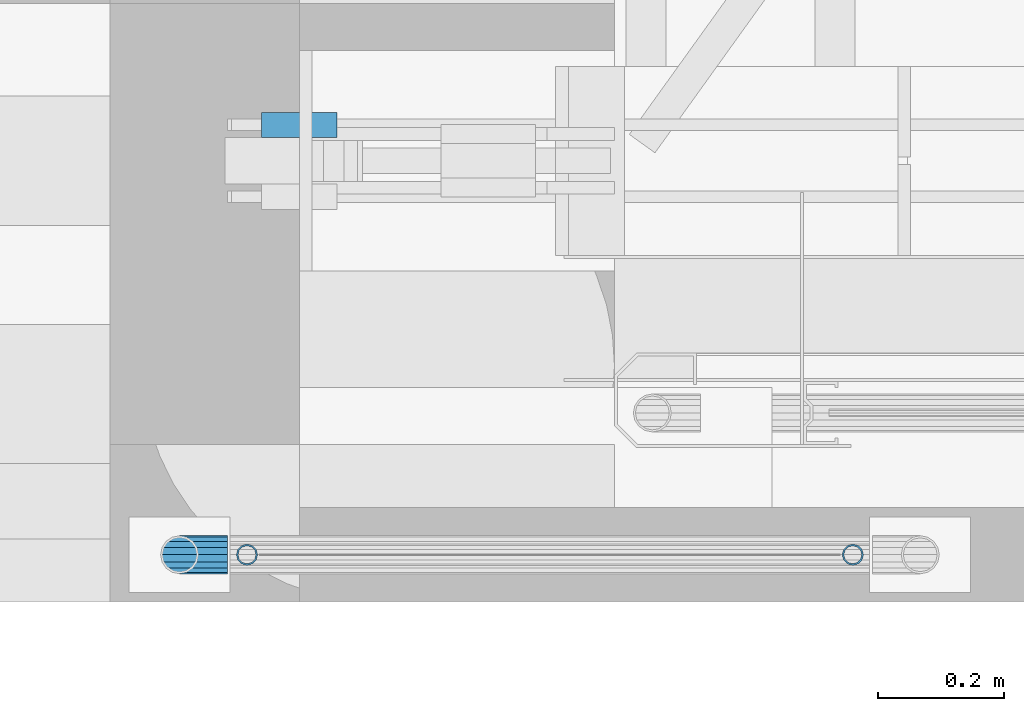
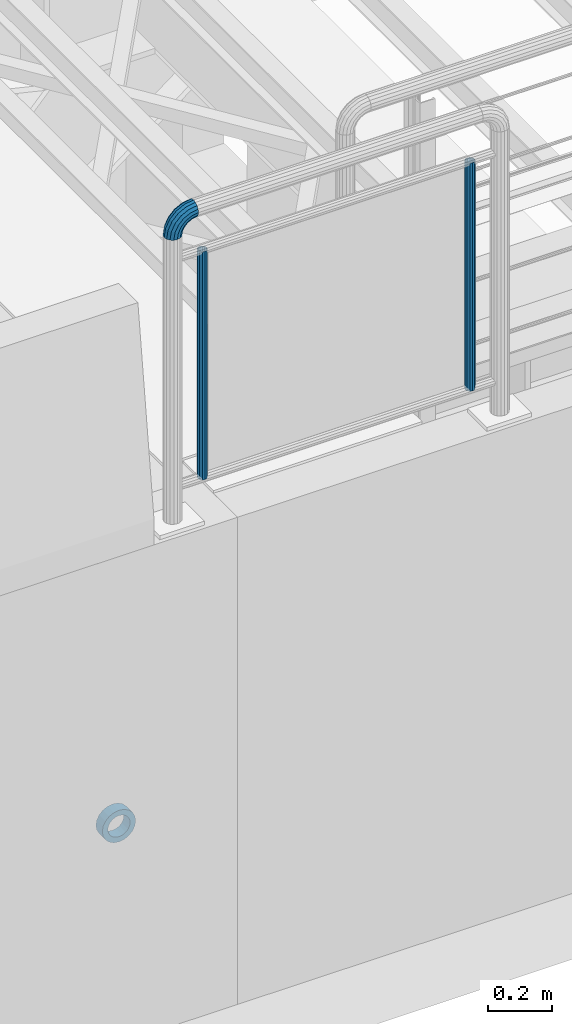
# One storey, part 19 of 31: 4 beams.
"""IFC2X3 building model written with IfcOpenShell, lengths in millimetres."""

from ifc_helpers import new_model, si_unit, frame, origin_with_axes, place, context, subcontext, project, spatial, faceted_brep, material, type_object, element, save


model = new_model("IFC2X3")

# Units and contexts
model_context = context("Model", 3, precision=1e-05, world=origin_with_axes())
body_context = subcontext(model_context, "Body", "Model", "MODEL_VIEW")
ifc_project = project(units=[si_unit("LENGTHUNIT", "METRE", prefix="MILLI"), si_unit("AREAUNIT", "SQUARE_METRE"), si_unit("VOLUMEUNIT", "CUBIC_METRE"), si_unit("MASSUNIT", "GRAM", prefix="KILO"), si_unit("TIMEUNIT", "SECOND"), si_unit("PLANEANGLEUNIT", "RADIAN"), si_unit("SOLIDANGLEUNIT", "STERADIAN"), si_unit("THERMODYNAMICTEMPERATUREUNIT", "DEGREE_CELSIUS"), si_unit("LUMINOUSINTENSITYUNIT", "LUMEN")], contexts=[model_context])

# Site, building, storey
site_placement = place(None, origin_with_axes())
site = spatial("IfcSite", under=ifc_project, at=site_placement, Name="Undefined", CompositionType="ELEMENT")
building_placement = place(site_placement, origin_with_axes())
building = spatial("IfcBuilding", under=site, at=building_placement, Name="Undefined", CompositionType="ELEMENT")
storey_placement = place(building_placement, origin_with_axes())
storey = spatial("IfcBuildingStorey", under=building, at=storey_placement, Name="Undefined", CompositionType="ELEMENT", Elevation=0.0)

# Beams
ifc_material = material(Name="STEEL/S355J2+N")
beam_type_1 = type_object("IfcBeamType", Name="O120*20", PredefinedType="NOTDEFINED")
beam_1_placement = place(storey_placement, frame((2600.0, 37.0, -1619.69), z_axis=(0.0, 0.0, -1.0), x_axis=(0.0, 1.0, 0.0)))
element("IfcBeam", 1, at=beam_1_placement, inside=storey, type_object=beam_type_1, material=ifc_material, Name="STÅLBJELKE", context=body_context, shape_type="Brep", body=[
    faceted_brep([(0.0, -40.0, 0.0), (0.0, -38.0422606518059, 12.3606797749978), (40.0, -38.0422606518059, 12.3606797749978), (40.0, -40.0, 0.0), (0.0, -32.3606797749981, 23.511410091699), (40.0, -32.3606797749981, 23.511410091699), (0.0, -23.511410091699, 32.3606797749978), (40.0, -23.511410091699, 32.3606797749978), (0.0, -12.3606797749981, 38.0422606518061), (40.0, -12.3606797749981, 38.0422606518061), (0.0, 0.0, 40.0), (40.0, 0.0, 40.0), (0.0, 12.3606797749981, 38.0422606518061), (40.0, 12.3606797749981, 38.0422606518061), (0.0, 23.511410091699, 32.3606797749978), (40.0, 23.511410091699, 32.3606797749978), (0.0, 32.3606797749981, 23.511410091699), (40.0, 32.3606797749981, 23.511410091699), (0.0, 38.0422606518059, 12.3606797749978), (40.0, 38.0422606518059, 12.3606797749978), (0.0, 40.0, 0.0), (40.0, 40.0, 0.0), (0.0, 38.0422606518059, -12.3606797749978), (40.0, 38.0422606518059, -12.3606797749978), (0.0, 32.3606797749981, -23.511410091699), (40.0, 32.3606797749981, -23.511410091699), (0.0, 23.511410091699, -32.3606797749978), (40.0, 23.511410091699, -32.3606797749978), (0.0, 12.3606797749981, -38.0422606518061), (40.0, 12.3606797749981, -38.0422606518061), (0.0, 0.0, -40.0), (40.0, 0.0, -40.0), (0.0, -12.3606797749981, -38.0422606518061), (40.0, -12.3606797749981, -38.0422606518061), (0.0, -23.511410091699, -32.3606797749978), (40.0, -23.511410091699, -32.3606797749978), (0.0, -32.3606797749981, -23.511410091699), (40.0, -32.3606797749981, -23.511410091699), (0.0, -38.0422606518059, -12.3606797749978), (40.0, -38.0422606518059, -12.3606797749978), (0.0, -60.0, 0.0), (0.0, -57.0633909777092, -18.5410196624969), (40.0, -57.0633909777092, -18.5410196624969), (40.0, -60.0, 0.0), (0.0, -48.5410196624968, -35.2671151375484), (40.0, -48.5410196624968, -35.2671151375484), (0.0, -35.2671151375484, -48.5410196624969), (40.0, -35.2671151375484, -48.5410196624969), (0.0, -18.5410196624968, -57.0633909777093), (40.0, -18.5410196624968, -57.0633909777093), (0.0, 0.0, -60.0), (40.0, 0.0, -60.0), (0.0, 18.5410196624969, -57.0633909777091), (40.0, 18.5410196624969, -57.0633909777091), (0.0, 35.2671151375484, -48.5410196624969), (40.0, 35.2671151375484, -48.5410196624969), (0.0, 48.5410196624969, -35.2671151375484), (40.0, 48.5410196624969, -35.2671151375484), (0.0, 57.0633909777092, -18.5410196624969), (40.0, 57.0633909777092, -18.5410196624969), (0.0, 60.0, 0.0), (40.0, 60.0, 0.0), (0.0, 57.0633909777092, 18.5410196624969), (40.0, 57.0633909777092, 18.5410196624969), (0.0, 48.5410196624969, 35.2671151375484), (40.0, 48.5410196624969, 35.2671151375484), (0.0, 35.2671151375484, 48.5410196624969), (40.0, 35.2671151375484, 48.5410196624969), (0.0, 18.5410196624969, 57.0633909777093), (40.0, 18.5410196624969, 57.0633909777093), (0.0, 0.0, 60.0), (40.0, 0.0, 60.0), (0.0, -18.5410196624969, 57.0633909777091), (40.0, -18.5410196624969, 57.0633909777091), (0.0, -35.2671151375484, 48.5410196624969), (40.0, -35.2671151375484, 48.5410196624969), (0.0, -48.5410196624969, 35.2671151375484), (40.0, -48.5410196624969, 35.2671151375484), (0.0, -57.0633909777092, 18.5410196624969), (40.0, -57.0633909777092, 18.5410196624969)], [[[0, 1, 2, 3]], [[1, 4, 5, 2]], [[4, 6, 7, 5]], [[6, 8, 9, 7]], [[8, 10, 11, 9]], [[10, 12, 13, 11]], [[12, 14, 15, 13]], [[14, 16, 17, 15]], [[16, 18, 19, 17]], [[18, 20, 21, 19]], [[20, 22, 23, 21]], [[22, 24, 25, 23]], [[24, 26, 27, 25]], [[26, 28, 29, 27]], [[28, 30, 31, 29]], [[30, 32, 33, 31]], [[32, 34, 35, 33]], [[34, 36, 37, 35]], [[36, 38, 39, 37]], [[38, 0, 3, 39]], [[40, 41, 42, 43]], [[41, 44, 45, 42]], [[44, 46, 47, 45]], [[46, 48, 49, 47]], [[48, 50, 51, 49]], [[50, 52, 53, 51]], [[52, 54, 55, 53]], [[54, 56, 57, 55]], [[56, 58, 59, 57]], [[58, 60, 61, 59]], [[60, 62, 63, 61]], [[62, 64, 65, 63]], [[64, 66, 67, 65]], [[66, 68, 69, 67]], [[68, 70, 71, 69]], [[70, 72, 73, 71]], [[72, 74, 75, 73]], [[74, 76, 77, 75]], [[76, 78, 79, 77]], [[78, 40, 43, 79]], [[45, 47, 49, 51, 53, 55, 57, 59, 61, 63, 65, 67, 69, 71, 73, 75, 77, 79, 43, 42], [5, 7, 9, 11, 13, 15, 17, 19, 21, 23, 25, 27, 29, 31, 33, 35, 37, 39, 3, 2]], [[78, 76, 74, 72, 70, 68, 66, 64, 62, 60, 58, 56, 54, 52, 50, 48, 46, 44, 41, 40], [38, 36, 34, 32, 30, 28, 26, 24, 22, 20, 18, 16, 14, 12, 10, 8, 6, 4, 1, 0]]]),
])
beam_type_2 = type_object("IfcBeamType", Name="CFCHS60.3*3.2", PredefinedType="NOTDEFINED")
beam_2_placement = place(storey_placement, frame((2486.0, -625.0, 1169.85), z_axis=(-1.0, 0.0, 0.0), x_axis=(0.0, 0.0, -1.0)))
element("IfcBeam", 2, at=beam_2_placement, inside=storey, type_object=beam_type_2, material=ifc_material, Name="LKREKKVERK", context=body_context, shape_type="Brep", body=[
    faceted_brep([(11.5379054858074, -27.8549679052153, 0.0), (21.3192694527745, -21.3192694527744, 0.0), (23.9955348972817, -21.3192694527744, 16.8972750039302), (14.6929049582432, -27.8549679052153, 19.9198826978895), (31.7623597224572, -21.3192694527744, 32.1405270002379), (23.8490700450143, -27.8549679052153, 37.8898684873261), (43.8594729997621, -21.3192694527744, 44.2376402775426), (38.1101315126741, -27.8549679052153, 52.1509299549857), (59.10272499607, -21.3192694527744, 52.0044651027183), (56.0801173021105, -27.8549679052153, 61.3070950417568), (47.7010601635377, -11.5379054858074, 38.9501491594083), (61.1223668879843, -11.5379054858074, 45.7886465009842), (37.0498508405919, -11.5379054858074, 28.2989398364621), (30.2113534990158, -11.5379054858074, 14.8776331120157), (27.8549679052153, -11.5379054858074, 0.0), (30.1500000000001, 0.0, 0.0), (32.3940587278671, 0.0, 14.1684291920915), (38.9065708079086, 0.0, 26.9499538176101), (49.0500461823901, 0.0, 37.0934291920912), (61.8315708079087, 0.0, 43.6059412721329), (47.7010601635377, 11.5379054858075, 38.9501491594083), (61.1223668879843, 11.5379054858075, 45.7886465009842), (37.0498508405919, 11.5379054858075, 28.2989398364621), (30.2113534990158, 11.5379054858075, 14.8776331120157), (27.8549679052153, 11.5379054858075, 0.0), (21.3192694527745, 21.3192694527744, 0.0), (23.9955348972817, 21.3192694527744, 16.8972750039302), (31.7623597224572, 21.3192694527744, 32.1405270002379), (43.8594729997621, 21.3192694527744, 44.2376402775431), (59.10272499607, 21.3192694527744, 52.0044651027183), (38.1101315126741, 27.8549679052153, 52.1509299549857), (56.0801173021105, 27.8549679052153, 61.3070950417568), (23.8490700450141, 27.8549679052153, 37.8898684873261), (14.6929049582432, 27.8549679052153, 19.9198826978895), (11.5379054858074, 27.8549679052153, 0.0), (0.0, 30.15, 0.0), (3.71970476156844, 30.15, 23.485291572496), (14.514708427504, 30.15, 44.6716791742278), (31.3283208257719, 30.15, 61.485291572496), (52.514708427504, 30.15, 72.2802952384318), (24.54651013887, 27.8549679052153, 70.8196531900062), (48.9492995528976, 27.8549679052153, 83.2534954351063), (5.18034680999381, 27.8549679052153, 51.45348986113), (-7.25349543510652, 27.8549679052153, 27.0507004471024), (-11.5379054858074, 27.8549679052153, 0.0), (-21.3192694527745, 21.3192694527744, 0.0), (-16.556125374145, 21.3192694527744, 30.0733081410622), (-2.73294286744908, 21.3192694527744, 57.2028313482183), (18.7971686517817, 21.3192694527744, 78.7329428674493), (45.9266918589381, 21.3192694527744, 92.5561253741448), (14.9555814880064, 11.5379054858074, 84.0204339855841), (43.9070499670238, 11.5379054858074, 98.7719439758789), (-8.02043398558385, 11.5379054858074, 61.0444185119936), (-22.7719439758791, 11.5379054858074, 32.0929500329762), (-27.8549679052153, 11.5379054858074, 0.0), (-30.1500000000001, 0.0, 0.0), (-24.9546492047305, 0.0, 32.8021539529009), (-9.8771539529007, 0.0, 62.3934045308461), (13.6065954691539, 0.0, 85.8771539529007), (43.1978460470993, 0.0, 100.954649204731), (14.9555814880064, -11.5379054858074, 84.0204339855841), (43.9070499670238, -11.5379054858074, 98.7719439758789), (-8.02043398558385, -11.5379054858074, 61.0444185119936), (-22.7719439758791, -11.5379054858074, 32.0929500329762), (-27.8549679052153, -11.5379054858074, 0.0), (-21.3192694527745, -21.3192694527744, 0.0), (-16.556125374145, -21.3192694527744, 30.0733081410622), (-2.73294286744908, -21.3192694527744, 57.2028313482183), (18.7971686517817, -21.3192694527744, 78.7329428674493), (45.9266918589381, -21.3192694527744, 92.5561253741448), (24.54651013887, -27.8549679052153, 70.8196531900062), (48.9492995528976, -27.8549679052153, 83.2534954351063), (5.18034680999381, -27.8549679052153, 51.45348986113), (-7.25349543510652, -27.8549679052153, 27.0507004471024), (-11.5379054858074, -27.8549679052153, 0.0), (0.0, -30.15, 0.0), (3.71970476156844, -30.15, 23.485291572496), (14.514708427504, -30.15, 44.6716791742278), (31.3283208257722, -30.15, 61.485291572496), (52.514708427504, -30.15, 72.2802952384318), (76.0, -30.15, 76.0), (76.0, -27.8549679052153, 87.5379054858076), (76.0, -21.3192694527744, 97.3192694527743), (76.0, -11.5379054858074, 103.854967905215), (76.0, 0.0, 106.15), (76.0, 11.5379054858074, 103.854967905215), (76.0, 21.3192694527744, 97.3192694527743), (76.0, 27.8549679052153, 87.5379054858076), (76.0, 30.15, 76.0), (76.0, 27.8549679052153, 64.4620945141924), (76.0, 21.3192694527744, 54.6807305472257), (76.0, 11.5379054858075, 48.1450320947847), (76.0, 0.0, 45.8499999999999), (76.0, -11.5379054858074, 48.1450320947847), (76.0, -21.3192694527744, 54.6807305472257), (76.0, -27.8549679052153, 64.4620945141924), (10.3133185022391, -24.8985534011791, 0.0), (19.0565277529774, -19.0565277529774, 0.0), (24.8985534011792, -10.3133185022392, 0.0), (26.95, 0.0, 0.0), (24.8985534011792, 10.3133185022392, 0.0), (19.0565277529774, 19.0565277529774, 0.0), (10.3133185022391, 24.8985534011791, 0.0), (0.0, 26.95, 0.0), (-10.3133185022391, 24.8985534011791, 0.0), (-19.0565277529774, 19.0565277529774, 0.0), (-24.8985534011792, 10.3133185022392, 0.0), (-26.95, 0.0, 0.0), (-24.8985534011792, -10.3133185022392, 0.0), (-19.0565277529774, -19.0565277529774, 0.0), (-10.3133185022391, -24.8985534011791, 0.0), (0.0, -26.95, 0.0), (3.71970476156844, -26.95, 23.485291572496), (13.5282535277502, -24.8985534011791, 20.2983008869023), (21.8435396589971, -19.0565277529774, 17.5965006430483), (27.3996362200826, -10.3133185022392, 15.7912154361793), (29.3506778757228, 0.0, 15.1572835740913), (27.3996362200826, 10.3133185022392, 15.7912154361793), (21.8435396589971, 19.0565277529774, 17.5965006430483), (13.5282535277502, 24.8985534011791, 20.2983008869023), (3.71970476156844, 26.95, 23.485291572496), (-6.08884400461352, 24.8985534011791, 26.6722822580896), (-14.4041301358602, 19.0565277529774, 29.374082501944), (-19.9602266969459, 10.3133185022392, 31.1793677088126), (-21.9112683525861, 0.0, 31.8132995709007), (-19.9602266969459, -10.3133185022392, 31.1793677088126), (-14.4041301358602, -19.0565277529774, 29.374082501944), (-6.08884400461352, -24.8985534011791, 26.6722822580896), (6.17105849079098, -24.8985534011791, 50.7336956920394), (14.514708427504, -26.95, 44.6716791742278), (22.8583583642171, -24.8985534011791, 38.6096626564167), (29.9317632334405, -19.0565277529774, 33.4705332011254), (34.6580612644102, -10.3133185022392, 30.0366766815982), (36.3177164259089, 0.0, 28.8308666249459), (34.6580612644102, 10.3133185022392, 30.0366766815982), (29.9317632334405, 19.0565277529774, 33.4705332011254), (22.8583583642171, 24.8985534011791, 38.6096626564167), (14.514708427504, 26.95, 44.6716791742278), (6.17105849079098, 24.8985534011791, 50.7336956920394), (-0.90234637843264, 19.0565277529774, 55.8728251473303), (-5.62864440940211, 10.3133185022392, 59.3066816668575), (-7.28829957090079, 0.0, 60.5124917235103), (-5.62864440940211, -10.3133185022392, 59.3066816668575), (-0.90234637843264, -19.0565277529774, 55.8728251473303), (20.1271748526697, -19.0565277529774, 76.9023463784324), (25.2663043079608, -24.8985534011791, 69.828941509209), (31.3283208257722, -26.95, 61.485291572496), (37.3903373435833, -24.8985534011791, 53.1416416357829), (42.5294667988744, -19.0565277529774, 46.0682367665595), (45.9633233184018, -10.3133185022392, 41.3419387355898), (47.1691333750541, 0.0, 39.6822835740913), (45.9633233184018, 10.3133185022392, 41.3419387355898), (42.5294667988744, 19.0565277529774, 46.0682367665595), (37.3903373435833, 24.8985534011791, 53.1416416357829), (31.3283208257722, 26.95, 61.485291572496), (25.2663043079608, 24.8985534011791, 69.828941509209), (20.1271748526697, 19.0565277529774, 76.9023463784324), (16.6933183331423, 10.3133185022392, 81.6286444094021), (15.48750827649, 0.0, 83.288299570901), (16.6933183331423, -10.3133185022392, 81.6286444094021), (44.8206322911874, -10.3133185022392, 95.9602266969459), (46.6259174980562, -19.0565277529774, 90.4041301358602), (49.3277177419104, -24.8985534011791, 82.0888440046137), (52.514708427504, -26.95, 72.2802952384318), (55.7016991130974, -24.8985534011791, 62.4717464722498), (58.4034993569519, -19.0565277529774, 54.1564603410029), (60.2087845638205, -10.3133185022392, 48.6003637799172), (60.8427164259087, 0.0, 46.6493221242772), (60.2087845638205, 10.3133185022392, 48.6003637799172), (58.4034993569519, 19.0565277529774, 54.1564603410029), (55.7016991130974, 24.8985534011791, 62.4717464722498), (52.514708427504, 26.95, 72.2802952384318), (49.3277177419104, 24.8985534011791, 82.0888440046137), (46.6259174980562, 19.0565277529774, 90.4041301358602), (44.8206322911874, 10.3133185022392, 95.9602266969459), (44.1867004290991, 0.0, 97.9112683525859), (76.0, 0.0, 102.95), (76.0, -10.3133185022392, 100.898553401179), (76.0, -19.0565277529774, 95.0565277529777), (76.0, -24.8985534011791, 86.3133185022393), (76.0, -26.95, 76.0), (76.0, -24.8985534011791, 65.6866814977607), (76.0, -19.0565277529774, 56.9434722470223), (76.0, -10.3133185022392, 51.101446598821), (76.0, 0.0, 49.0500000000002), (76.0, 10.3133185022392, 51.101446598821), (76.0, 19.0565277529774, 56.9434722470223), (76.0, 24.8985534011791, 65.6866814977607), (76.0, 26.95, 76.0), (76.0, 24.8985534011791, 86.3133185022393), (76.0, 19.0565277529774, 95.0565277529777), (76.0, 10.3133185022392, 100.898553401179)], [[[0, 1, 2, 3]], [[3, 2, 4, 5]], [[5, 4, 6, 7]], [[7, 6, 8, 9]], [[6, 10, 11, 8]], [[4, 12, 10, 6]], [[2, 13, 12, 4]], [[1, 14, 13, 2]], [[14, 15, 16, 13]], [[13, 16, 17, 12]], [[12, 17, 18, 10]], [[10, 18, 19, 11]], [[18, 20, 21, 19]], [[17, 22, 20, 18]], [[16, 23, 22, 17]], [[15, 24, 23, 16]], [[24, 25, 26, 23]], [[23, 26, 27, 22]], [[22, 27, 28, 20]], [[20, 28, 29, 21]], [[28, 30, 31, 29]], [[27, 32, 30, 28]], [[26, 33, 32, 27]], [[25, 34, 33, 26]], [[34, 35, 36, 33]], [[33, 36, 37, 32]], [[32, 37, 38, 30]], [[30, 38, 39, 31]], [[38, 40, 41, 39]], [[37, 42, 40, 38]], [[36, 43, 42, 37]], [[35, 44, 43, 36]], [[44, 45, 46, 43]], [[43, 46, 47, 42]], [[42, 47, 48, 40]], [[40, 48, 49, 41]], [[48, 50, 51, 49]], [[47, 52, 50, 48]], [[46, 53, 52, 47]], [[45, 54, 53, 46]], [[54, 55, 56, 53]], [[53, 56, 57, 52]], [[52, 57, 58, 50]], [[50, 58, 59, 51]], [[58, 60, 61, 59]], [[57, 62, 60, 58]], [[56, 63, 62, 57]], [[55, 64, 63, 56]], [[64, 65, 66, 63]], [[63, 66, 67, 62]], [[62, 67, 68, 60]], [[60, 68, 69, 61]], [[68, 70, 71, 69]], [[67, 72, 70, 68]], [[66, 73, 72, 67]], [[65, 74, 73, 66]], [[74, 75, 76, 73]], [[73, 76, 77, 72]], [[72, 77, 78, 70]], [[70, 78, 79, 71]], [[71, 79, 80, 81]], [[69, 71, 81, 82]], [[61, 69, 82, 83]], [[59, 61, 83, 84]], [[51, 59, 84, 85]], [[49, 51, 85, 86]], [[41, 49, 86, 87]], [[39, 41, 87, 88]], [[31, 39, 88, 89]], [[29, 31, 89, 90]], [[21, 29, 90, 91]], [[19, 21, 91, 92]], [[11, 19, 92, 93]], [[8, 11, 93, 94]], [[9, 8, 94, 95]], [[79, 9, 95, 80]], [[78, 7, 9, 79]], [[77, 5, 7, 78]], [[76, 3, 5, 77]], [[75, 0, 3, 76]], [[74, 65, 64, 55, 54, 45, 44, 35, 34, 25, 24, 15, 14, 1, 0, 75], [96, 97, 98, 99, 100, 101, 102, 103, 104, 105, 106, 107, 108, 109, 110, 111]], [[96, 111, 112, 113]], [[97, 96, 113, 114]], [[98, 97, 114, 115]], [[99, 98, 115, 116]], [[100, 99, 116, 117]], [[101, 100, 117, 118]], [[102, 101, 118, 119]], [[103, 102, 119, 120]], [[104, 103, 120, 121]], [[105, 104, 121, 122]], [[106, 105, 122, 123]], [[107, 106, 123, 124]], [[108, 107, 124, 125]], [[109, 108, 125, 126]], [[110, 109, 126, 127]], [[111, 110, 127, 112]], [[112, 127, 128, 129]], [[113, 112, 129, 130]], [[114, 113, 130, 131]], [[115, 114, 131, 132]], [[116, 115, 132, 133]], [[117, 116, 133, 134]], [[118, 117, 134, 135]], [[119, 118, 135, 136]], [[120, 119, 136, 137]], [[121, 120, 137, 138]], [[122, 121, 138, 139]], [[123, 122, 139, 140]], [[124, 123, 140, 141]], [[125, 124, 141, 142]], [[126, 125, 142, 143]], [[127, 126, 143, 128]], [[128, 143, 144, 145]], [[129, 128, 145, 146]], [[130, 129, 146, 147]], [[131, 130, 147, 148]], [[132, 131, 148, 149]], [[133, 132, 149, 150]], [[134, 133, 150, 151]], [[135, 134, 151, 152]], [[136, 135, 152, 153]], [[137, 136, 153, 154]], [[138, 137, 154, 155]], [[139, 138, 155, 156]], [[140, 139, 156, 157]], [[141, 140, 157, 158]], [[142, 141, 158, 159]], [[143, 142, 159, 144]], [[144, 159, 160, 161]], [[145, 144, 161, 162]], [[146, 145, 162, 163]], [[147, 146, 163, 164]], [[148, 147, 164, 165]], [[149, 148, 165, 166]], [[150, 149, 166, 167]], [[151, 150, 167, 168]], [[152, 151, 168, 169]], [[153, 152, 169, 170]], [[154, 153, 170, 171]], [[155, 154, 171, 172]], [[156, 155, 172, 173]], [[157, 156, 173, 174]], [[158, 157, 174, 175]], [[159, 158, 175, 160]], [[160, 175, 176, 177]], [[161, 160, 177, 178]], [[162, 161, 178, 179]], [[163, 162, 179, 180]], [[164, 163, 180, 181]], [[165, 164, 181, 182]], [[166, 165, 182, 183]], [[167, 166, 183, 184]], [[168, 167, 184, 185]], [[169, 168, 185, 186]], [[170, 169, 186, 187]], [[171, 170, 187, 188]], [[172, 171, 188, 189]], [[173, 172, 189, 190]], [[174, 173, 190, 191]], [[175, 174, 191, 176]], [[82, 81, 80, 95, 94, 93, 92, 91, 90, 89, 88, 87, 86, 85, 84, 83], [190, 189, 188, 187, 186, 185, 184, 183, 182, 181, 180, 179, 178, 177, 176, 191]]]),
])
beam_type_3 = type_object("IfcBeamType", Name="CFCHS33.7*2.6", PredefinedType="NOTDEFINED")
beam_3_placement = place(storey_placement, frame((2517.0, -625.0, 1003.15), z_axis=(0.0, 1.0, 0.0), x_axis=(0.0, 0.0, -1.0)))
element("IfcBeam", 3, at=beam_3_placement, inside=storey, type_object=beam_type_3, material=ifc_material, Name="LKBRØYTETETTPANEL", context=body_context, shape_type="Brep", body=[
    faceted_brep([(0.0, -14.25, 0.0), (0.0, -12.3408620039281, 7.125), (866.3, -12.3408620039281, 7.125), (866.3, -14.25, 0.0), (0.0, -7.125, 12.3408620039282), (866.3, -7.125, 12.3408620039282), (0.0, 0.0, 14.25), (866.3, 0.0, 14.25), (0.0, 7.125, 12.3408620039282), (866.3, 7.125, 12.3408620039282), (0.0, 12.3408620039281, 7.125), (866.3, 12.3408620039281, 7.125), (0.0, 14.25, 0.0), (866.3, 14.25, 0.0), (0.0, 12.3408620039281, -7.125), (866.3, 12.3408620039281, -7.125), (0.0, 7.125, -12.3408620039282), (866.3, 7.125, -12.3408620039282), (0.0, 0.0, -14.25), (866.3, 0.0, -14.25), (0.0, -7.125, -12.3408620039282), (866.3, -7.125, -12.3408620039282), (0.0, -12.3408620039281, -7.125), (866.3, -12.3408620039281, -7.125), (0.0, -16.8499999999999, 0.0), (0.0, -14.5925280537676, -8.42499999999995), (866.3, -14.5925280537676, -8.42499999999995), (866.3, -16.8499999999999, 0.0), (0.0, -8.42500000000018, -14.5925280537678), (866.3, -8.42500000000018, -14.5925280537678), (0.0, 0.0, -16.85), (866.3, 0.0, -16.85), (0.0, 8.42500000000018, -14.5925280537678), (866.3, 8.42500000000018, -14.5925280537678), (0.0, 14.5925280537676, -8.42499999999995), (866.3, 14.5925280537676, -8.42499999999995), (0.0, 16.8499999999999, 0.0), (866.3, 16.8499999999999, 0.0), (0.0, 14.5925280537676, 8.42499999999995), (866.3, 14.5925280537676, 8.42499999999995), (0.0, 8.42500000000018, 14.5925280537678), (866.3, 8.42500000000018, 14.5925280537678), (0.0, 0.0, 16.85), (866.3, 0.0, 16.85), (0.0, -8.42500000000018, 14.5925280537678), (866.3, -8.42500000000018, 14.5925280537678), (0.0, -14.5925280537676, 8.42499999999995), (866.3, -14.5925280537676, 8.42499999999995)], [[[0, 1, 2, 3]], [[1, 4, 5, 2]], [[4, 6, 7, 5]], [[6, 8, 9, 7]], [[8, 10, 11, 9]], [[10, 12, 13, 11]], [[12, 14, 15, 13]], [[14, 16, 17, 15]], [[16, 18, 19, 17]], [[18, 20, 21, 19]], [[20, 22, 23, 21]], [[22, 0, 3, 23]], [[24, 25, 26, 27]], [[25, 28, 29, 26]], [[28, 30, 31, 29]], [[30, 32, 33, 31]], [[32, 34, 35, 33]], [[34, 36, 37, 35]], [[36, 38, 39, 37]], [[38, 40, 41, 39]], [[40, 42, 43, 41]], [[42, 44, 45, 43]], [[44, 46, 47, 45]], [[46, 24, 27, 47]], [[29, 31, 33, 35, 37, 39, 41, 43, 45, 47, 27, 26], [5, 7, 9, 11, 13, 15, 17, 19, 21, 23, 3, 2]], [[46, 44, 42, 40, 38, 36, 34, 32, 30, 28, 25, 24], [22, 20, 18, 16, 14, 12, 10, 8, 6, 4, 1, 0]]]),
])
beam_4_placement = place(storey_placement, frame((3478.15, -625.0, 1003.15), z_axis=(0.0, 1.0, 0.0), x_axis=(0.0, 0.0, -1.0)))
element("IfcBeam", 4, at=beam_4_placement, inside=storey, type_object=beam_type_3, material=ifc_material, Name="LKBRØYTETETTPANEL", context=body_context, shape_type="Brep", body=[
    faceted_brep([(0.0, -14.25, 0.0), (0.0, -12.3408620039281, 7.125), (866.3, -12.3408620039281, 7.125), (866.3, -14.25, 0.0), (0.0, -7.125, 12.3408620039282), (866.3, -7.125, 12.3408620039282), (0.0, 0.0, 14.25), (866.3, 0.0, 14.25), (0.0, 7.125, 12.3408620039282), (866.3, 7.125, 12.3408620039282), (0.0, 12.3408620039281, 7.125), (866.3, 12.3408620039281, 7.125), (0.0, 14.25, 0.0), (866.3, 14.25, 0.0), (0.0, 12.3408620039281, -7.125), (866.3, 12.3408620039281, -7.125), (0.0, 7.125, -12.3408620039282), (866.3, 7.125, -12.3408620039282), (0.0, 0.0, -14.25), (866.3, 0.0, -14.25), (0.0, -7.125, -12.3408620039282), (866.3, -7.125, -12.3408620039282), (0.0, -12.3408620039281, -7.125), (866.3, -12.3408620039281, -7.125), (0.0, -16.8499999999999, 0.0), (0.0, -14.5925280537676, -8.42499999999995), (866.3, -14.5925280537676, -8.42499999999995), (866.3, -16.8499999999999, 0.0), (0.0, -8.42500000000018, -14.5925280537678), (866.3, -8.42500000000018, -14.5925280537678), (0.0, 0.0, -16.85), (866.3, 0.0, -16.85), (0.0, 8.42500000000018, -14.5925280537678), (866.3, 8.42500000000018, -14.5925280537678), (0.0, 14.5925280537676, -8.42499999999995), (866.3, 14.5925280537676, -8.42499999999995), (0.0, 16.8499999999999, 0.0), (866.3, 16.8499999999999, 0.0), (0.0, 14.5925280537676, 8.42499999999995), (866.3, 14.5925280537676, 8.42499999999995), (0.0, 8.42500000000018, 14.5925280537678), (866.3, 8.42500000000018, 14.5925280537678), (0.0, 0.0, 16.85), (866.3, 0.0, 16.85), (0.0, -8.42500000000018, 14.5925280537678), (866.3, -8.42500000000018, 14.5925280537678), (0.0, -14.5925280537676, 8.42499999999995), (866.3, -14.5925280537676, 8.42499999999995)], [[[0, 1, 2, 3]], [[1, 4, 5, 2]], [[4, 6, 7, 5]], [[6, 8, 9, 7]], [[8, 10, 11, 9]], [[10, 12, 13, 11]], [[12, 14, 15, 13]], [[14, 16, 17, 15]], [[16, 18, 19, 17]], [[18, 20, 21, 19]], [[20, 22, 23, 21]], [[22, 0, 3, 23]], [[24, 25, 26, 27]], [[25, 28, 29, 26]], [[28, 30, 31, 29]], [[30, 32, 33, 31]], [[32, 34, 35, 33]], [[34, 36, 37, 35]], [[36, 38, 39, 37]], [[38, 40, 41, 39]], [[40, 42, 43, 41]], [[42, 44, 45, 43]], [[44, 46, 47, 45]], [[46, 24, 27, 47]], [[29, 31, 33, 35, 37, 39, 41, 43, 45, 47, 27, 26], [5, 7, 9, 11, 13, 15, 17, 19, 21, 23, 3, 2]], [[46, 44, 42, 40, 38, 36, 34, 32, 30, 28, 25, 24], [22, 20, 18, 16, 14, 12, 10, 8, 6, 4, 1, 0]]]),
])

save(model, "model.ifc")
